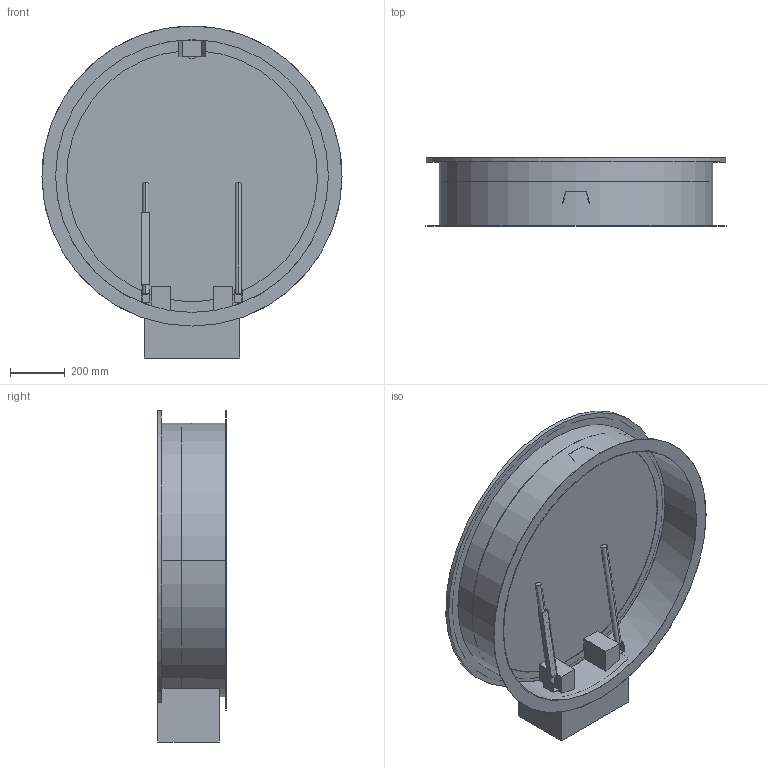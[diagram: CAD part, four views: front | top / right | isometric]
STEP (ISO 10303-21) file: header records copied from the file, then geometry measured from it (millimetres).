
FILE_DESCRIPTION((''),'2;1');
FILE_NAME('52432157','2025-07-24T09:03:37',('wep'),('HUBER SE'),'CREO PARAMETRIC BY PTC INC, 2022162','CREO PARAMETRIC BY PTC INC, 2022162','');
FILE_SCHEMA(('AUTOMOTIVE_DESIGN { 1 0 10303 214 1 1 1 1 }'));
Length unit declared in the file: millimetre
Products named in the file (1): 52432157
Bounding box: 1100 x 250.01 x 1217 mm (x, y, z)
Volume: 83172451 mm3; surface area: 4643574.1 mm2
Topology: 6 solids, 6 shells, 687 faces, 1863 edges, 1242 vertices
Faces by surface type: plane 380, extrusion 275, cylinder 32
Entity records: 23616 total; most frequent: CARTESIAN_POINT 6550, ORIENTED_EDGE 3726, DIRECTION 2484, EDGE_CURVE 1863, VECTOR 1504, VERTEX_POINT 1242, LINE 1229, B_SPLINE_CURVE_WITH_KNOTS 831
